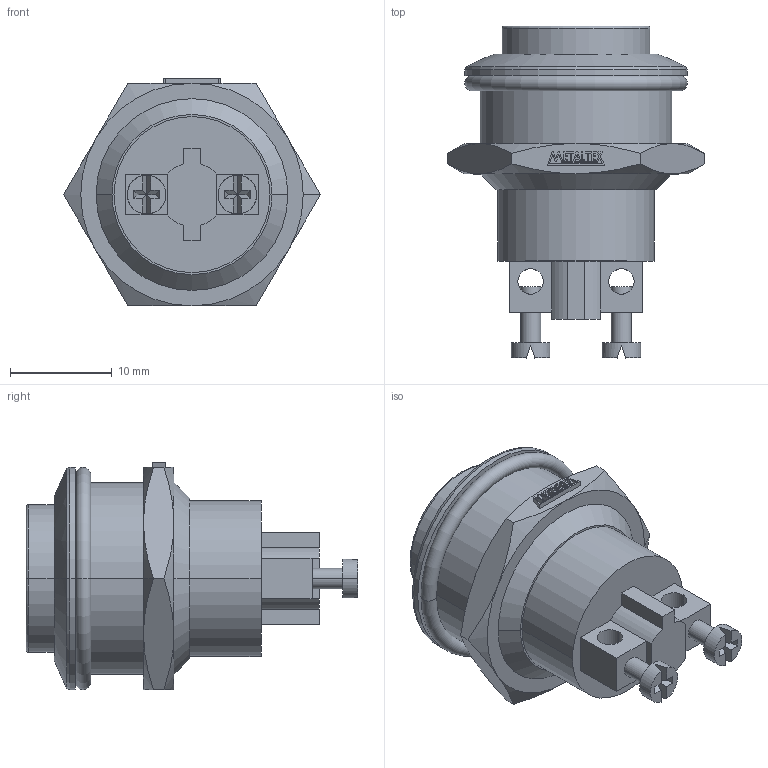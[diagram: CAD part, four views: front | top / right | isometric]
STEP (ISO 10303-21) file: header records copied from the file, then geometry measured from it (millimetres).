
FILE_DESCRIPTION (( 'STEP AP203' ), '1' );
FILE_NAME ('AV19HA.STEP', '2018-01-17T14:30:14', ( '' ), ( '' ), 'SwSTEP 2.0', 'SolidWorks 2012', '' );
FILE_SCHEMA (( 'CONFIG_CONTROL_DESIGN' ));
Length unit declared in the file: millimetre
Products named in the file (3): AV19HA; METALTEX 5,62
Assembly tree (2 placements, depth 2):
  AV19HA
    AV19HA
    METALTEX 5,62
Bounding box: 25.2 x 32.55 x 22.32 mm (x, y, z)
Volume: 6284.8 mm3; surface area: 2907.7 mm2
Topology: 8 solids, 8 shells, 209 faces, 504 edges, 324 vertices
Faces by surface type: plane 155, cylinder 30, cone 18, torus 4, sphere 2
Entity records: 6467 total; most frequent: CARTESIAN_POINT 1278, ORIENTED_EDGE 1008, DIRECTION 988, EDGE_CURVE 504, LINE 376, VECTOR 376, VERTEX_POINT 324, AXIS2_PLACEMENT_3D 306
